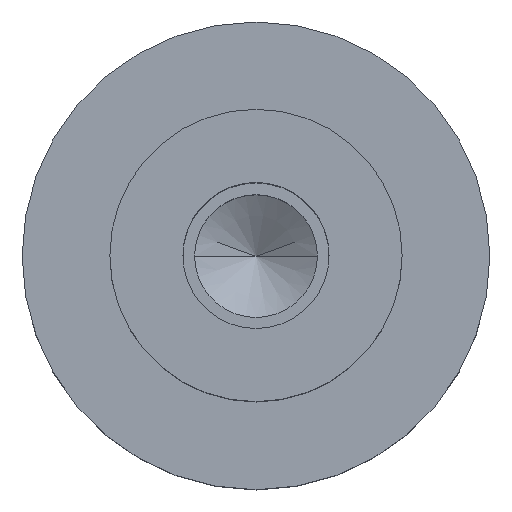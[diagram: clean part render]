
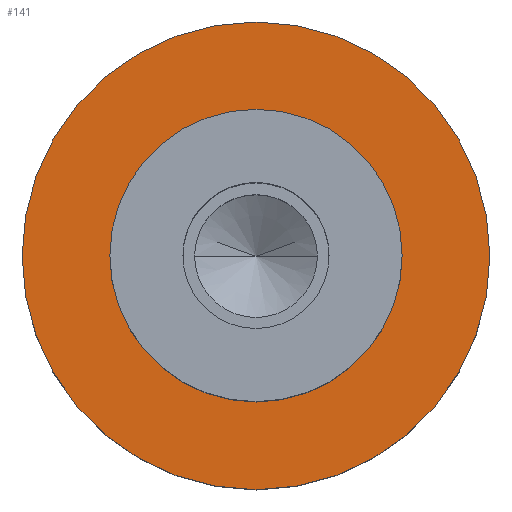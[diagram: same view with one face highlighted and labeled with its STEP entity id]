
A CAD part, top view. The second image highlights one B-rep face of the part: STEP entity #141.
In plain terms, the highlighted planar face has unit normal (0, 0, 1).
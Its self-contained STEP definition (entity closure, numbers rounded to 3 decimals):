
#101=PLANE('',#461);
#109=FACE_BOUND('',#188,.T.);
#110=FACE_BOUND('',#189,.T.);
#141=ADVANCED_FACE('',(#109,#110),#101,.T.);
#188=EDGE_LOOP('',(#279,#280));
#189=EDGE_LOOP('',(#281,#282));
#215=CIRCLE('',#455,5.);
#216=CIRCLE('',#457,5.);
#217=CIRCLE('',#459,8.);
#218=CIRCLE('',#460,8.);
#279=ORIENTED_EDGE('',*,*,#378,.F.);
#280=ORIENTED_EDGE('',*,*,#379,.F.);
#281=ORIENTED_EDGE('',*,*,#377,.T.);
#282=ORIENTED_EDGE('',*,*,#375,.T.);
#338=VERTEX_POINT('',#658);
#339=VERTEX_POINT('',#660);
#340=VERTEX_POINT('',#666);
#341=VERTEX_POINT('',#667);
#375=EDGE_CURVE('',#339,#338,#215,.T.);
#377=EDGE_CURVE('',#338,#339,#216,.T.);
#378=EDGE_CURVE('',#340,#341,#217,.T.);
#379=EDGE_CURVE('',#341,#340,#218,.T.);
#455=AXIS2_PLACEMENT_3D('',#659,#542,#543);
#457=AXIS2_PLACEMENT_3D('',#663,#547,#548);
#459=AXIS2_PLACEMENT_3D('',#665,#551,#552);
#460=AXIS2_PLACEMENT_3D('',#668,#553,#554);
#461=AXIS2_PLACEMENT_3D('',#669,#555,#556);
#542=DIRECTION('',(0.,0.,-1.));
#543=DIRECTION('',(0.,1.,0.));
#547=DIRECTION('',(0.,0.,-1.));
#548=DIRECTION('',(0.,-1.,0.));
#551=DIRECTION('',(0.,0.,-1.));
#552=DIRECTION('',(0.,1.,0.));
#553=DIRECTION('',(0.,0.,-1.));
#554=DIRECTION('',(0.,-1.,0.));
#555=DIRECTION('',(0.,0.,1.));
#556=DIRECTION('',(0.,-1.,0.));
#658=CARTESIAN_POINT('',(-5.,0.,0.));
#659=CARTESIAN_POINT('',(0.,0.,0.));
#660=CARTESIAN_POINT('',(5.,0.,0.));
#663=CARTESIAN_POINT('',(0.,0.,0.));
#665=CARTESIAN_POINT('',(0.,0.,0.));
#666=CARTESIAN_POINT('',(8.,0.,0.));
#667=CARTESIAN_POINT('',(-8.,0.,0.));
#668=CARTESIAN_POINT('',(0.,0.,0.));
#669=CARTESIAN_POINT('',(0.,0.,0.));
